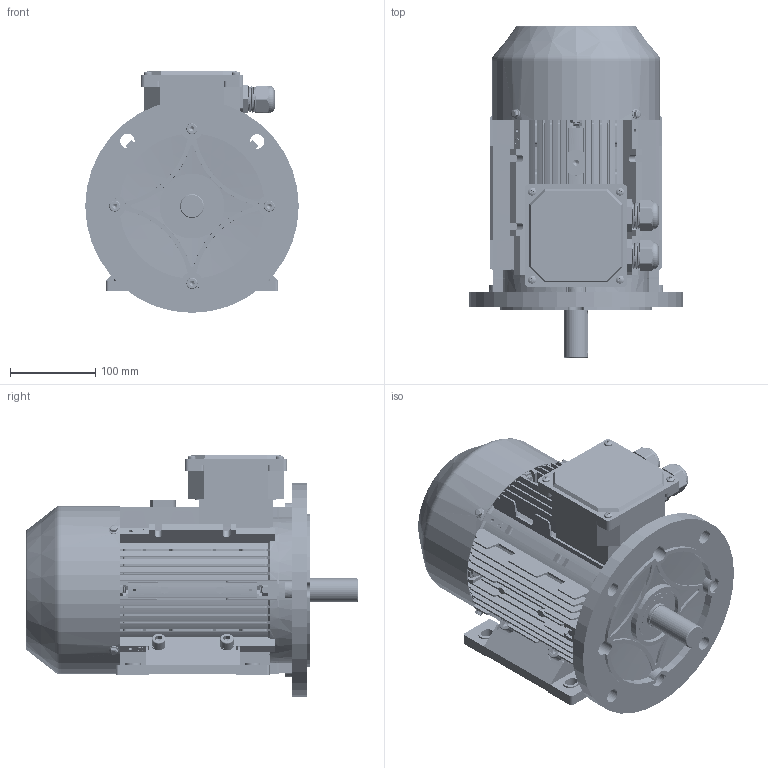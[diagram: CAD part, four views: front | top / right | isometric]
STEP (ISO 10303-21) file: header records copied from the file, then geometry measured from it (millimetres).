
FILE_DESCRIPTION (( 'STEP AP203' ), '1' );
FILE_NAME ('ME3-100B35 3D.STEP', '2024-06-18T07:57:47', ( 'User' ), ( 'China' ), 'SwSTEP 2.0', 'SolidWorks 2018', '' );
FILE_SCHEMA (( 'CONFIG_CONTROL_DESIGN' ));
Length unit declared in the file: millimetre
Products named in the file (24): hexagon socket head cap screws gb_GB_FASTENER_SCREWS_HSHCS M8X25-S; ME 3 100 瑞珔; ME3-100B35  3D; wave single coil spring lock washers gb_GB_FASTENER_WASHER_WSLW 10; circlips for shaft--type b gb_GB_CONNECTING_PIECE_RINGS_CSB 22; hexagon socket head cap screws gb_GB_FASTENER_SCREWS_HSHCS M10X30-S; MS112-132 諉盄碟釱; ME3-100 儂褲; hex nuts, style 2-grades ab gb_GB_HEXAGON_TYPE13 M10 Normal Style-S; M24 蹟杶; ME3-100菁褐; cross recessed pan head screws gb_GB_CROSS_SCREWS_TYPE1 M5X8-8  H type-S; M24 蹟杶簸; ME3-100ヶ傷裔B3; MS112-132諉盄碟裔; hexagon socket head cap screws gb_GB_FASTENER_SCREWS_HSHCS M8X35-S; deep groove ball bearings gb_Rolling bearings 6206 GB 276-94; ME3-100 瑞欶; hex nuts, style 2-grades ab gb_GB_HEXAGON_TYPE13 M8 Normal Style-S; ME3-100转轴（206.5）; hex flange bolts-heavy grade b gb_GB_FASTENER_BOLT_HFBB M5X10-S; wave single coil spring lock washers gb_GB_FASTENER_WASHER_WSLW 8; 蚐猾45X30X7; ME3-100傷裔B5
Assembly tree (63 placements, depth 2):
  ME3-100B35  3D
    ME3-100 儂褲
    ME3-100菁褐  x2
    ME3-100ヶ傷裔B3
    deep groove ball bearings gb_Rolling bearings 6206 GB 276-94  x2
    ME3-100转轴（206.5）
    蚐猾45X30X7
    ME 3 100 瑞珔
    circlips for shaft--type b gb_GB_CONNECTING_PIECE_RINGS_CSB 22
    MS112-132 諉盄碟釱
    M24 蹟杶  x2
    M24 蹟杶簸  x2
    hexagon socket head cap screws gb_GB_FASTENER_SCREWS_HSHCS M8X35-S  x7
    hex nuts, style 2-grades ab gb_GB_HEXAGON_TYPE13 M8 Normal Style-S  x9
    wave single coil spring lock washers gb_GB_FASTENER_WASHER_WSLW 8  x4
    hexagon socket head cap screws gb_GB_FASTENER_SCREWS_HSHCS M8X25-S
    wave single coil spring lock washers gb_GB_FASTENER_WASHER_WSLW 10  x4
    hexagon socket head cap screws gb_GB_FASTENER_SCREWS_HSHCS M10X30-S  x4
    hex nuts, style 2-grades ab gb_GB_HEXAGON_TYPE13 M10 Normal Style-S  x4
    cross recessed pan head screws gb_GB_CROSS_SCREWS_TYPE1 M5X8-8  H type-S  x8
    MS112-132諉盄碟裔
    ME3-100 瑞欶
    hex flange bolts-heavy grade b gb_GB_FASTENER_BOLT_HFBB M5X10-S  x4
    ME3-100傷裔B5
Bounding box: 250 x 388.69 x 283 mm (x, y, z)
Volume: 2268446.1 mm3; surface area: 1283494.9 mm2
Topology: 63 solids, 64 shells, 8695 faces, 20581 edges, 11979 vertices
Faces by surface type: cone 3417, cylinder 2670, plane 2200, torus 244, bspline 84, sphere 80
Entity records: 137068 total; most frequent: CARTESIAN_POINT 35618, ORIENTED_EDGE 20786, DIRECTION 20269, EDGE_CURVE 10393, AXIS2_PLACEMENT_3D 7191, VERTEX_POINT 6472, LINE 5887, VECTOR 5887
